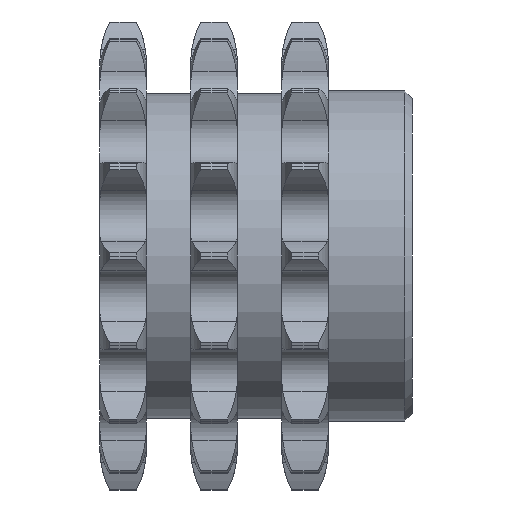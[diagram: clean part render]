
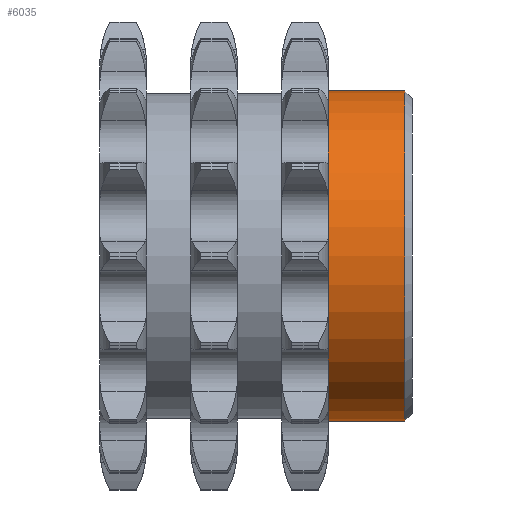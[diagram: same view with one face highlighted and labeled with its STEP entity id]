
A CAD part, front view. The second image highlights one B-rep face of the part: STEP entity #6035.
In plain terms, the highlighted cylindrical face has radius 18500 mm (diameter 37000 mm), a full revolution.
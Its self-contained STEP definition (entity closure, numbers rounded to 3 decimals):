
#25=FACE_BOUND('',#1050,.T.);
#332=CIRCLE('',#6518,18500.);
#385=CIRCLE('',#6617,18500.);
#713=FACE_OUTER_BOUND('',#1049,.T.);
#1049=EDGE_LOOP('',(#5439));
#1050=EDGE_LOOP('',(#5440));
#2613=VERTEX_POINT('',#14004);
#2617=VERTEX_POINT('',#14107);
#3519=EDGE_CURVE('',#2613,#2613,#332,.T.);
#3572=EDGE_CURVE('',#2617,#2617,#385,.T.);
#5439=ORIENTED_EDGE('',*,*,#3519,.T.);
#5440=ORIENTED_EDGE('',*,*,#3572,.F.);
#5712=CYLINDRICAL_SURFACE('',#6616,18500.);
#6035=ADVANCED_FACE('',(#713,#25),#5712,.T.);
#6518=AXIS2_PLACEMENT_3D('',#14005,#7798,#7799);
#6616=AXIS2_PLACEMENT_3D('',#14106,#7994,#7995);
#6617=AXIS2_PLACEMENT_3D('',#14108,#7996,#7997);
#7798=DIRECTION('center_axis',(1.,0.,0.));
#7799=DIRECTION('ref_axis',(0.,0.,-1.));
#7994=DIRECTION('center_axis',(1.,0.,0.));
#7995=DIRECTION('ref_axis',(0.,1.,0.));
#7996=DIRECTION('center_axis',(1.,0.,0.));
#7997=DIRECTION('ref_axis',(0.,0.,-1.));
#14004=CARTESIAN_POINT('',(29080.302,18489.384,0.));
#14005=CARTESIAN_POINT('Origin',(29080.302,-10.616,0.));
#14106=CARTESIAN_POINT('Origin',(33380.302,-10.616,0.));
#14107=CARTESIAN_POINT('',(37680.302,18489.384,0.));
#14108=CARTESIAN_POINT('Origin',(37680.302,-10.616,0.));
